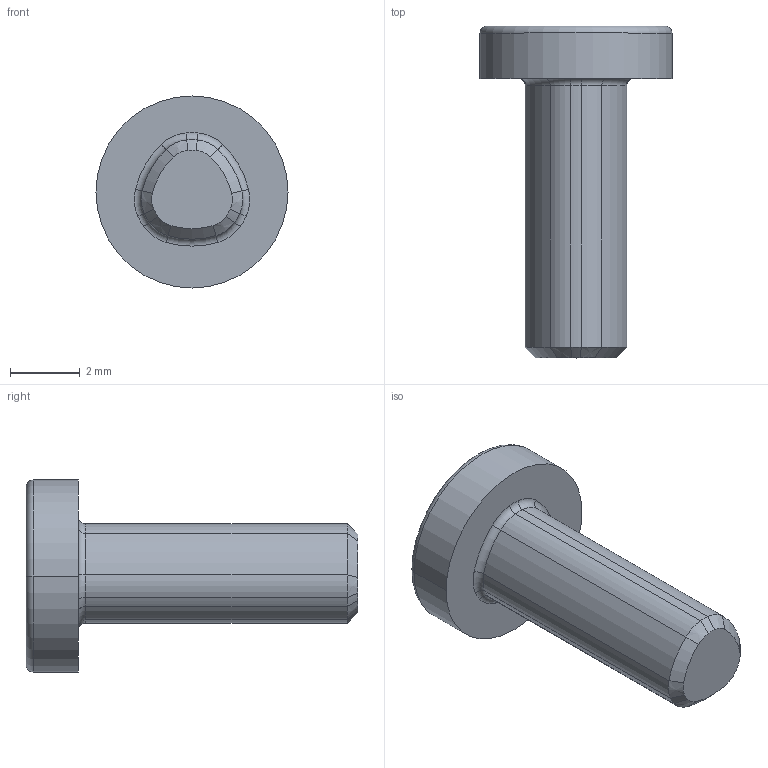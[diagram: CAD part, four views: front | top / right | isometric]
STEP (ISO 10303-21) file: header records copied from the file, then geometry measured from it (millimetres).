
FILE_DESCRIPTION((''),'2;1');
FILE_NAME('0001','2024-04-17T10:50:14',('qinghui.yi'),(''),'CREO PARAMETRIC BY PTC INC, 2019164','CREO PARAMETRIC BY PTC INC, 2019164','');
FILE_SCHEMA(('CONFIG_CONTROL_DESIGN','SHAPE_APPEARANCE_LAYERS_GROUPS'));
Length unit declared in the file: millimetre
Products named in the file (1): 0001
Bounding box: 5.5 x 9.5 x 5.5 mm (x, y, z)
Volume: 82.5 mm3; surface area: 149.7 mm2
Topology: 1 solids, 1 shells, 68 faces, 157 edges, 96 vertices
Faces by surface type: cylinder 20, cone 18, plane 16, torus 14
Entity records: 2769 total; most frequent: DIRECTION 381, CARTESIAN_POINT 316, COLOUR_RGB 313, ORIENTED_EDGE 308, PRESENTATION_STYLE_ASSIGNMENT 159, STYLED_ITEM 159, CURVE_STYLE 158, AXIS2_PLACEMENT_3D 155
